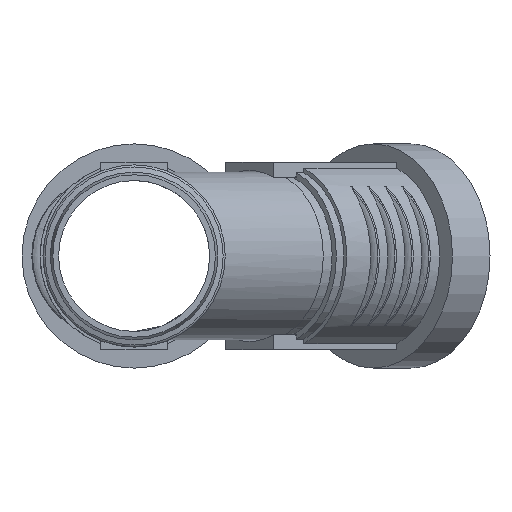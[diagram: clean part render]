
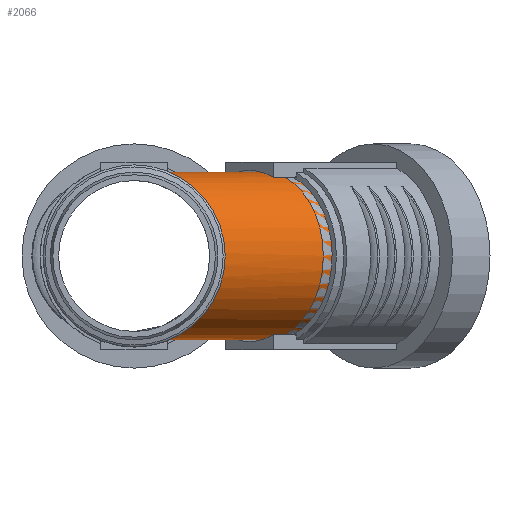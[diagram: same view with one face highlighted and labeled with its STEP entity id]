
A CAD part, front view. The second image highlights one B-rep face of the part: STEP entity #2066.
In plain terms, the highlighted cylindrical face has radius 20.075 mm (diameter 40.15 mm), a partial arc.
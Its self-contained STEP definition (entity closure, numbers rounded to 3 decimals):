
#127=ELLIPSE($,#2209,52.459,20.075);
#128=ELLIPSE($,#2210,21.729,20.075);
#129=ELLIPSE($,#2211,52.459,20.075);
#373=CYLINDRICAL_SURFACE($,#2216,20.075);
#479=FACE_OUTER_BOUND($,#607,.T.);
#607=EDGE_LOOP($,(#1397,#1398,#1399,#1400));
#778=CIRCLE($,#2203,20.075);
#878=VERTEX_POINT($,#3035);
#879=VERTEX_POINT($,#3036);
#882=VERTEX_POINT($,#3046);
#883=VERTEX_POINT($,#3048);
#1091=EDGE_CURVE($,#879,#878,#778,.T.);
#1095=EDGE_CURVE($,#879,#882,#127,.T.);
#1096=EDGE_CURVE($,#882,#883,#128,.T.);
#1097=EDGE_CURVE($,#883,#878,#129,.T.);
#1397=ORIENTED_EDGE($,*,*,#1091,.T.);
#1398=ORIENTED_EDGE($,*,*,#1097,.F.);
#1399=ORIENTED_EDGE($,*,*,#1096,.F.);
#1400=ORIENTED_EDGE($,*,*,#1095,.F.);
#2066=ADVANCED_FACE($,(#479),#373,.T.);
#2203=AXIS2_PLACEMENT_3D($,#3038,#2460,#2461);
#2209=AXIS2_PLACEMENT_3D($,#3047,#2472,#2473);
#2210=AXIS2_PLACEMENT_3D($,#3049,#2474,#2475);
#2211=AXIS2_PLACEMENT_3D($,#3050,#2476,#2477);
#2216=AXIS2_PLACEMENT_3D($,#3057,#2486,#2487);
#2460=DIRECTION('center_axis',(-0.707,-0.707,0.));
#2461=DIRECTION('ref_axis',(0.707,-0.707,0.));
#2472=DIRECTION('center_axis',(-0.924,0.383,0.));
#2473=DIRECTION('ref_axis',(-0.383,-0.924,0.));
#2474=DIRECTION('center_axis',(-0.383,-0.924,0.));
#2475=DIRECTION('ref_axis',(0.924,-0.383,0.));
#2476=DIRECTION('center_axis',(-0.924,0.383,0.));
#2477=DIRECTION('ref_axis',(-0.383,-0.924,0.));
#2486=DIRECTION('center_axis',(-0.707,-0.707,0.));
#2487=DIRECTION('ref_axis',(0.707,-0.707,0.));
#3035=CARTESIAN_POINT('',(19.758,106.75,3.554));
#3036=CARTESIAN_POINT('',(19.758,106.75,-3.554));
#3038=CARTESIAN_POINT('Origin',(33.729,92.779,0.));
#3046=CARTESIAN_POINT('',(0.,59.05,-20.075));
#3047=CARTESIAN_POINT('Origin',(0.,59.05,0.));
#3048=CARTESIAN_POINT('',(0.,59.05,20.075));
#3049=CARTESIAN_POINT('Origin',(0.,59.05,0.));
#3050=CARTESIAN_POINT('Origin',(0.,59.05,0.));
#3057=CARTESIAN_POINT('Origin',(33.729,92.779,0.));
